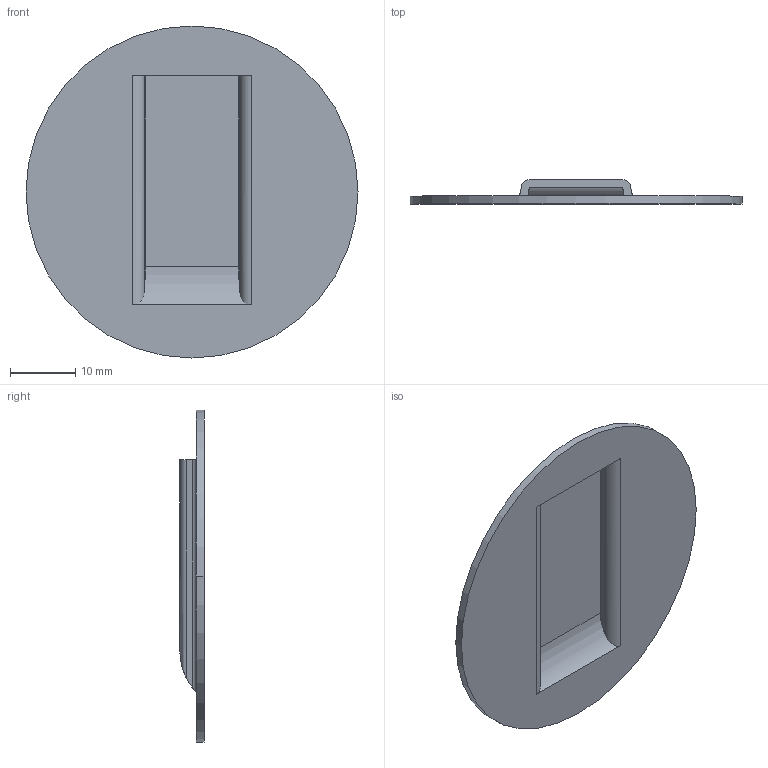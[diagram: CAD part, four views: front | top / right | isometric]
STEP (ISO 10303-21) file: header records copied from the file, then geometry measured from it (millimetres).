
FILE_DESCRIPTION (( 'STEP AP203' ), '1' );
FILE_NAME ('1382586-30.STEP', '2024-11-18T17:11:30', ( '' ), ( '' ), 'SwSTEP 2.0', 'SolidWorks 2024', '' );
FILE_SCHEMA (( 'CONFIG_CONTROL_DESIGN' ));
Length unit declared in the file: inch
Products named in the file (1): 1382586-30
Bounding box: 50.8 x 3.71 x 50.8 mm (x, y, z)
Volume: 2611.6 mm3; surface area: 4520.8 mm2
Topology: 1 solids, 1 shells, 20 faces, 53 edges, 35 vertices
Faces by surface type: cylinder 10, plane 10
Entity records: 755 total; most frequent: CARTESIAN_POINT 186, ORIENTED_EDGE 106, DIRECTION 96, EDGE_CURVE 53, VERTEX_POINT 35, AXIS2_PLACEMENT_3D 33, VECTOR 30, LINE 30
